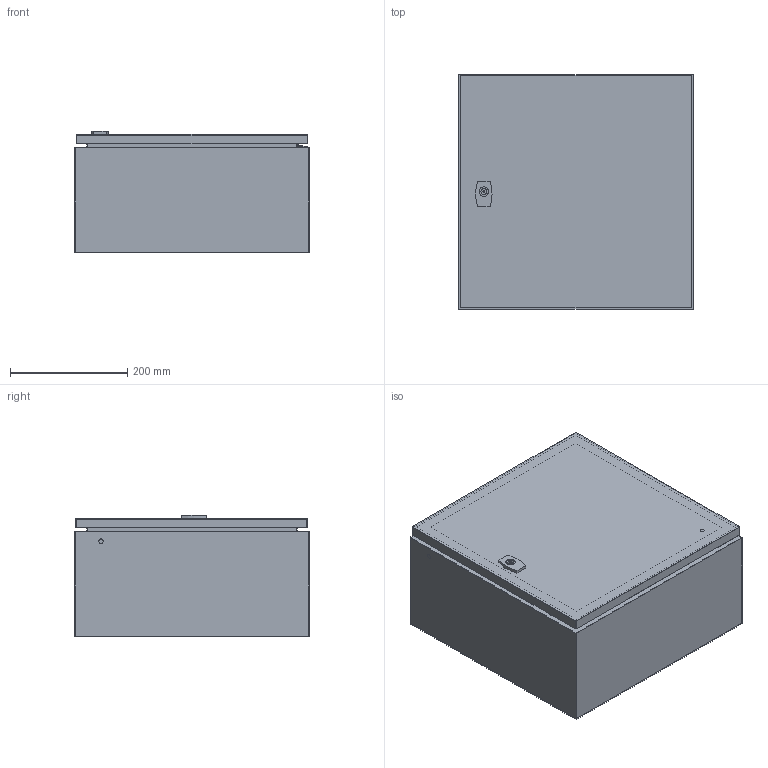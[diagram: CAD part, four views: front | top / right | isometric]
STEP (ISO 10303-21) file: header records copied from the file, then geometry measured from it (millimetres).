
FILE_DESCRIPTION((''),'2;1');
FILE_NAME('1743575354991_ASM','2025-04-02T11:59:36',('SESA730405'),('Schneider-Electric'),'CREO PARAMETRIC BY PTC INC, 2022484','CREO PARAMETRIC BY PTC INC, 2022484','');
FILE_SCHEMA(('AP242_MANAGED_MODEL_BASED_3D_ENGINEERING_MIM_LF { 1 0 10303 442 1 1 4 }'));
Length unit declared in the file: millimetre
Products named in the file (19): EMPTYNODE_1743575355025_ASM; 2302060401; 280226000101; 8250006312; 6303100401_ASM_ASM; 6303100401_ASM; S3X-BODY-4420_ASM; 2102340401; 5100570000; 2802230001; 6507450401_ASM_ASM; 6507450401_ASM; CRN44; 5200270014M; 5101200000; S3X-DOOR-44_ASM; S3X-LOCK-1; S3X-LOCK-1_ASM; 1743575354991_ASM
Assembly tree (25 placements, depth 5):
  1743575354991_ASM
    EMPTYNODE_1743575355025_ASM
    S3X-BODY-4420_ASM
      6303100401_ASM
        6303100401_ASM_ASM
          2302060401
          280226000101  x4
          8250006312  x2
    S3X-DOOR-44_ASM
      6507450401_ASM
        6507450401_ASM_ASM
          2102340401
          5100570000  x2
          2802230001
      CRN44
      5200270014M  x2
      5101200000  x2
    S3X-LOCK-1_ASM
      S3X-LOCK-1
Bounding box: 400 x 400 x 207.24 mm (x, y, z)
Volume: 1016503.8 mm3; surface area: 1465948.1 mm2
Topology: 17 solids, 17 shells, 427 faces, 1046 edges, 690 vertices
Faces by surface type: plane 295, cylinder 132
Entity records: 12506 total; most frequent: DIRECTION 1610, CARTESIAN_POINT 1607, ORIENTED_EDGE 1448, PRESENTATION_STYLE_ASSIGNMENT 794, STYLED_ITEM 785, CURVE_STYLE 724, EDGE_CURVE 724, VECTOR 556
